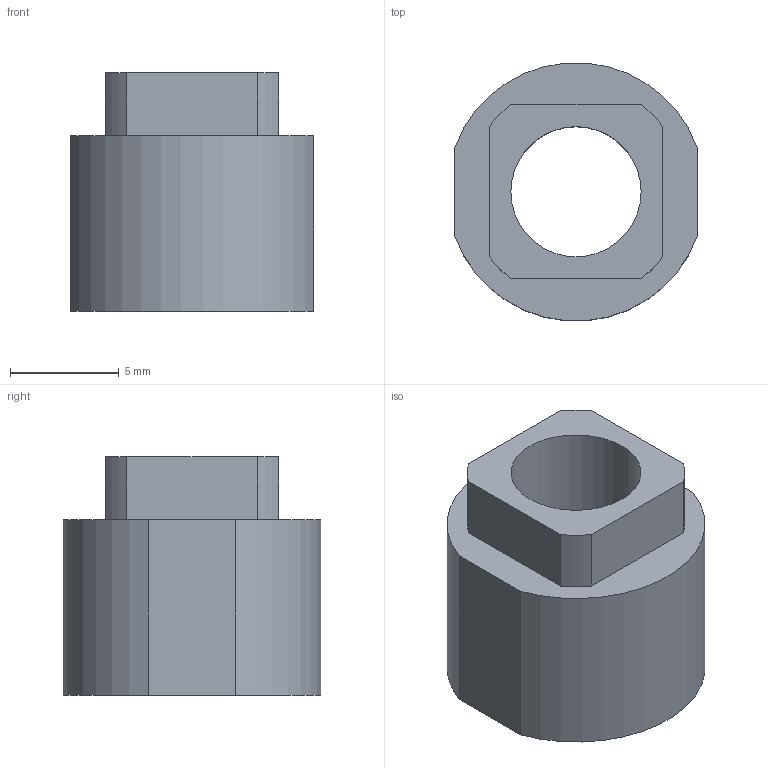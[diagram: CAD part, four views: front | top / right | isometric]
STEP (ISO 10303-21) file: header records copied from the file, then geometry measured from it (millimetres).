
FILE_DESCRIPTION (( 'STEP AP214' ), '1' );
FILE_NAME ('Tulejka blacha 1,5mm.STEP', '2010-03-03T15:00:16', ( '£ukaszC' ), ( '' ), 'SwSTEP 2.0', 'SolidWorks 2008', '' );
FILE_SCHEMA (( 'AUTOMOTIVE_DESIGN' ));
Length unit declared in the file: millimetre
Products named in the file (1): Tulejka blacha 1,5mm
Bounding box: 11.2 x 11.86 x 11 mm (x, y, z)
Volume: 630 mm3; surface area: 796.7 mm2
Topology: 1 solids, 1 shells, 26 faces, 66 edges, 44 vertices
Faces by surface type: plane 14, cylinder 12
Entity records: 1107 total; most frequent: DIRECTION 144, CARTESIAN_POINT 137, ORIENTED_EDGE 132, EDGE_CURVE 66, AXIS2_PLACEMENT_3D 51, VERTEX_POINT 44, VECTOR 42, LINE 42
